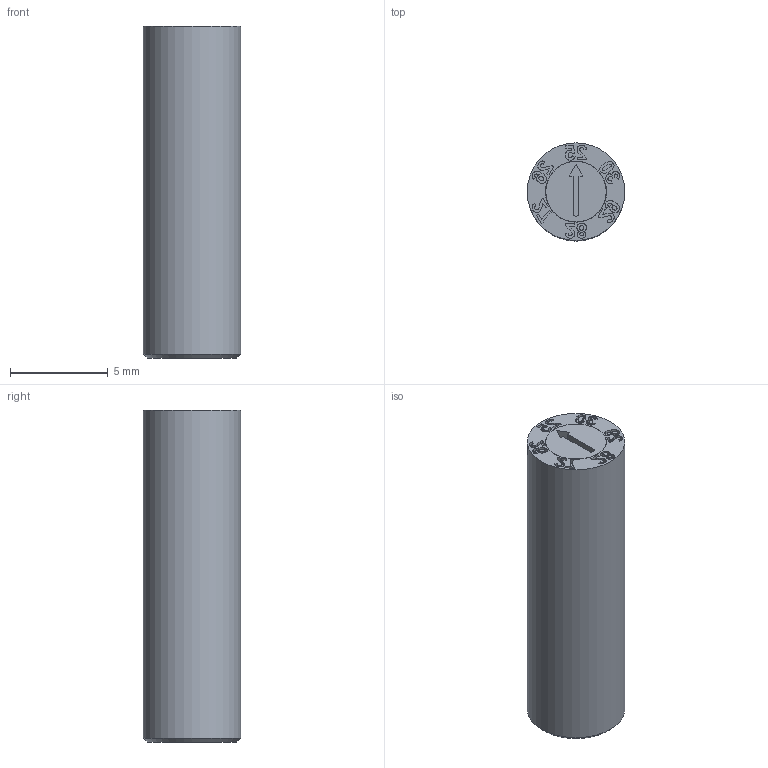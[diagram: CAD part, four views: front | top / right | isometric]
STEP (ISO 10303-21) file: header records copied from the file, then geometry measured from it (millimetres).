
FILE_DESCRIPTION(/* description */ (''),/* implementation_level */ '2;1');
FILE_NAME(/* name */ 'IMC-D2000-Y5.step',/* time_stamp */ '2025-06-24T13:19:00+02:00',/* author */ (''),/* organization */ (''),/* preprocessor_version */ 'ST-DEVELOPER v20.1',/* originating_system */ 'Autodesk Translation Framework v14.10.0.0',/* authorisation */ '');
FILE_SCHEMA (('AUTOMOTIVE_DESIGN { 1 0 10303 214 3 1 1 }'));
Length unit declared in the file: millimetre
Products named in the file (1): D2000-Y5
Bounding box: 5 x 5 x 17 mm (x, y, z)
Volume: 316 mm3; surface area: 357.9 mm2
Topology: 1 solids, 1 shells, 300 faces, 832 edges, 554 vertices
Faces by surface type: bspline 227, plane 65, cylinder 5, cone 3
Full cylindrical faces by diameter (mm): 2.529 x1, 3.1 x1, 3.12 x1, 5 x1
Entity records: 11691 total; most frequent: CARTESIAN_POINT 5545, ORIENTED_EDGE 1662, EDGE_CURVE 831, VERTEX_POINT 554, DIRECTION 538, B_SPLINE_CURVE_WITH_KNOTS 454, LINE 364, VECTOR 364
